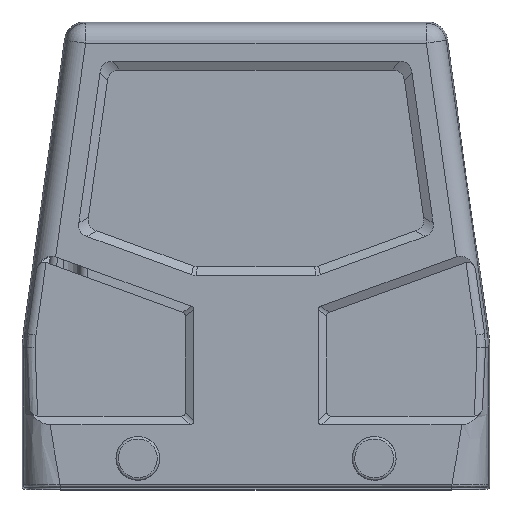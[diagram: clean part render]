
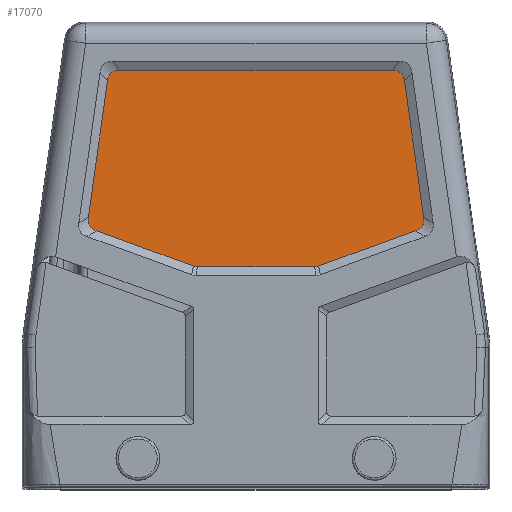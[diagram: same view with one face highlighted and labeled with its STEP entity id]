
A CAD part, top view. The second image highlights one B-rep face of the part: STEP entity #17070.
In plain terms, the highlighted planar face has unit normal (0, 0, 1).
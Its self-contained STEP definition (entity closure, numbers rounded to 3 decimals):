
#120 = CARTESIAN_POINT ( 'NONE',  ( -29.483, 36.346, 40.25 ) ) ;
#453 = VERTEX_POINT ( 'NONE', #10609 ) ;
#526 = CARTESIAN_POINT ( 'NONE',  ( 12.333, -2.218, 40.25 ) ) ;
#551 = CARTESIAN_POINT ( 'NONE',  ( 28.071, 37.268, 40.25 ) ) ;
#805 = DIRECTION ( 'NONE',  ( 0., 0., 1. ) ) ;
#815 = EDGE_CURVE ( 'NONE', #15549, #4106, #8582, .T. ) ;
#950 = CARTESIAN_POINT ( 'NONE',  ( 33.7, 7.667, 40.25 ) ) ;
#1557 = CARTESIAN_POINT ( 'NONE',  ( 29.745, 35.812, 40.25 ) ) ;
#1606 = CARTESIAN_POINT ( 'NONE',  ( 12.609, -2.117, 40.25 ) ) ;
#1804 = VERTEX_POINT ( 'NONE', #8917 ) ;
#2239 = DIRECTION ( 'NONE',  ( -1., 0., 0. ) ) ;
#2337 = DIRECTION ( 'NONE',  ( 0.94, 0.342, 0. ) ) ;
#2397 = CARTESIAN_POINT ( 'NONE',  ( 12.609, -2.117, 40.25 ) ) ;
#2506 = VERTEX_POINT ( 'NONE', #3150 ) ;
#2814 = B_SPLINE_CURVE_WITH_KNOTS ( 'NONE', 3,
 ( #8912, #15443, #7605, #120, #5529, #3229 ),
 .UNSPECIFIED., .F., .F.,
 ( 4, 2, 4 ),
 ( 0., 0.5, 1. ),
 .UNSPECIFIED. ) ;
#3150 = CARTESIAN_POINT ( 'NONE',  ( 27.367, 37.268, 40.25 ) ) ;
#3229 = CARTESIAN_POINT ( 'NONE',  ( -29.843, 35.116, 40.25 ) ) ;
#3358 = B_SPLINE_CURVE_WITH_KNOTS ( 'NONE', 3,
 ( #3411, #15900, #526, #10330 ),
 .UNSPECIFIED., .F., .F.,
 ( 4, 4 ),
 ( 0., 1. ),
 .UNSPECIFIED. ) ;
#3411 = CARTESIAN_POINT ( 'NONE',  ( 11.754, -2.268, 40.25 ) ) ;
#3476 = EDGE_CURVE ( 'NONE', #453, #8239, #3358, .T. ) ;
#3523 = EDGE_CURVE ( 'NONE', #1804, #17454, #13267, .T. ) ;
#3529 = ORIENTED_EDGE ( 'NONE', *, *, #3476, .T. ) ;
#3621 = DIRECTION ( 'NONE',  ( 1., 0., 0. ) ) ;
#3638 = EDGE_CURVE ( 'NONE', #12534, #9338, #15901, .T. ) ;
#3771 = CARTESIAN_POINT ( 'NONE',  ( -32.08, 4.97, 40.25 ) ) ;
#3883 = CARTESIAN_POINT ( 'NONE',  ( 33.7, 7.667, 40.25 ) ) ;
#3907 = EDGE_CURVE ( 'NONE', #16758, #1804, #2814, .T. ) ;
#3967 = CARTESIAN_POINT ( 'NONE',  ( -32.08, 4.97, 40.25 ) ) ;
#4106 = VERTEX_POINT ( 'NONE', #3883 ) ;
#4176 = ORIENTED_EDGE ( 'NONE', *, *, #815, .T. ) ;
#5103 = CARTESIAN_POINT ( 'NONE',  ( -11.754, -2.268, 40.25 ) ) ;
#5110 = CARTESIAN_POINT ( 'NONE',  ( -12.048, -2.268, 40.25 ) ) ;
#5192 = CARTESIAN_POINT ( 'NONE',  ( -33.698, 6.46, 40.25 ) ) ;
#5214 = AXIS2_PLACEMENT_3D ( 'NONE', #17502, #805, #3621 ) ;
#5234 = CARTESIAN_POINT ( 'NONE',  ( -12.333, -2.218, 40.25 ) ) ;
#5529 = CARTESIAN_POINT ( 'NONE',  ( -29.745, 35.813, 40.25 ) ) ;
#5624 = CARTESIAN_POINT ( 'NONE',  ( -27.367, 37.268, 40.25 ) ) ;
#5788 = ORIENTED_EDGE ( 'NONE', *, *, #3638, .T. ) ;
#6126 = ORIENTED_EDGE ( 'NONE', *, *, #13498, .T. ) ;
#6260 = VERTEX_POINT ( 'NONE', #5103 ) ;
#6330 = CARTESIAN_POINT ( 'NONE',  ( 27.367, 37.268, 40.25 ) ) ;
#6606 = CARTESIAN_POINT ( 'NONE',  ( -32.698, 5.195, 40.25 ) ) ;
#6712 = ORIENTED_EDGE ( 'NONE', *, *, #15891, .T. ) ;
#6955 = LINE ( 'NONE', #16192, #8448 ) ;
#7585 = CARTESIAN_POINT ( 'NONE',  ( -29.843, 35.116, 40.25 ) ) ;
#7605 = CARTESIAN_POINT ( 'NONE',  ( -28.635, 37.083, 40.25 ) ) ;
#8156 = EDGE_CURVE ( 'NONE', #17579, #2506, #16194, .T. ) ;
#8239 = VERTEX_POINT ( 'NONE', #1606 ) ;
#8313 = CARTESIAN_POINT ( 'NONE',  ( 29.843, 35.116, 40.25 ) ) ;
#8448 = VECTOR ( 'NONE', #2239, 1000. ) ;
#8469 = VECTOR ( 'NONE', #13746, 1000. ) ;
#8582 = B_SPLINE_CURVE_WITH_KNOTS ( 'NONE', 3,
 ( #16193, #9217, #10618, #13431, #13491, #950 ),
 .UNSPECIFIED., .F., .F.,
 ( 4, 2, 4 ),
 ( 0., 0.5, 1. ),
 .UNSPECIFIED. ) ;
#8849 = VECTOR ( 'NONE', #2337, 1000. ) ;
#8912 = CARTESIAN_POINT ( 'NONE',  ( -27.367, 37.268, 40.25 ) ) ;
#8917 = CARTESIAN_POINT ( 'NONE',  ( -29.843, 35.116, 40.25 ) ) ;
#9076 = ORIENTED_EDGE ( 'NONE', *, *, #9581, .T. ) ;
#9154 = EDGE_LOOP ( 'NONE', ( #3529, #9076, #4176, #6712, #10224, #6126, #17597, #16926, #16747, #5788, #12641, #16512 ) ) ;
#9217 = CARTESIAN_POINT ( 'NONE',  ( 32.697, 5.194, 40.25 ) ) ;
#9338 = VERTEX_POINT ( 'NONE', #18078 ) ;
#9354 = CARTESIAN_POINT ( 'NONE',  ( -33.7, 7.667, 40.25 ) ) ;
#9427 = LINE ( 'NONE', #16110, #12041 ) ;
#9580 = VECTOR ( 'NONE', #14484, 1000. ) ;
#9581 = EDGE_CURVE ( 'NONE', #8239, #15549, #12555, .T. ) ;
#10224 = ORIENTED_EDGE ( 'NONE', *, *, #8156, .T. ) ;
#10330 = CARTESIAN_POINT ( 'NONE',  ( 12.609, -2.117, 40.25 ) ) ;
#10413 = CARTESIAN_POINT ( 'NONE',  ( 28.635, 37.084, 40.25 ) ) ;
#10609 = CARTESIAN_POINT ( 'NONE',  ( 11.754, -2.268, 40.25 ) ) ;
#10618 = CARTESIAN_POINT ( 'NONE',  ( 33.145, 5.538, 40.25 ) ) ;
#11163 = B_SPLINE_CURVE_WITH_KNOTS ( 'NONE', 3,
 ( #13598, #5234, #5110, #14878 ),
 .UNSPECIFIED., .F., .F.,
 ( 4, 4 ),
 ( 0., 1. ),
 .UNSPECIFIED. ) ;
#11826 = VECTOR ( 'NONE', #16755, 1000. ) ;
#11833 = DIRECTION ( 'NONE',  ( 1., 0., 0. ) ) ;
#11906 = CARTESIAN_POINT ( 'NONE',  ( 32.08, 4.97, 40.25 ) ) ;
#12038 = EDGE_CURVE ( 'NONE', #9338, #6260, #11163, .T. ) ;
#12041 = VECTOR ( 'NONE', #11833, 1000. ) ;
#12142 = CARTESIAN_POINT ( 'NONE',  ( -33.792, 7.016, 40.25 ) ) ;
#12422 = B_SPLINE_CURVE_WITH_KNOTS ( 'NONE', 3,
 ( #14969, #12142, #5192, #13559, #6606, #3771 ),
 .UNSPECIFIED., .F., .F.,
 ( 4, 2, 4 ),
 ( 0., 0.5, 1. ),
 .UNSPECIFIED. ) ;
#12534 = VERTEX_POINT ( 'NONE', #15156 ) ;
#12555 = LINE ( 'NONE', #2397, #8849 ) ;
#12641 = ORIENTED_EDGE ( 'NONE', *, *, #12038, .T. ) ;
#12799 = EDGE_CURVE ( 'NONE', #6260, #453, #9427, .T. ) ;
#12988 = CARTESIAN_POINT ( 'NONE',  ( 29.843, 35.116, 40.25 ) ) ;
#13267 = LINE ( 'NONE', #7585, #9580 ) ;
#13431 = CARTESIAN_POINT ( 'NONE',  ( 33.699, 6.459, 40.25 ) ) ;
#13491 = CARTESIAN_POINT ( 'NONE',  ( 33.792, 7.016, 40.25 ) ) ;
#13498 = EDGE_CURVE ( 'NONE', #2506, #16758, #6955, .T. ) ;
#13559 = CARTESIAN_POINT ( 'NONE',  ( -33.145, 5.538, 40.25 ) ) ;
#13598 = CARTESIAN_POINT ( 'NONE',  ( -12.609, -2.117, 40.25 ) ) ;
#13746 = DIRECTION ( 'NONE',  ( 0.94, -0.342, 0. ) ) ;
#14213 = FACE_OUTER_BOUND ( 'NONE', #9154, .T. ) ;
#14484 = DIRECTION ( 'NONE',  ( -0.139, -0.99, 0. ) ) ;
#14878 = CARTESIAN_POINT ( 'NONE',  ( -11.754, -2.268, 40.25 ) ) ;
#14891 = LINE ( 'NONE', #15459, #11826 ) ;
#14969 = CARTESIAN_POINT ( 'NONE',  ( -33.7, 7.667, 40.25 ) ) ;
#15156 = CARTESIAN_POINT ( 'NONE',  ( -32.08, 4.97, 40.25 ) ) ;
#15443 = CARTESIAN_POINT ( 'NONE',  ( -28.07, 37.268, 40.25 ) ) ;
#15459 = CARTESIAN_POINT ( 'NONE',  ( 33.7, 7.667, 40.25 ) ) ;
#15549 = VERTEX_POINT ( 'NONE', #11906 ) ;
#15891 = EDGE_CURVE ( 'NONE', #4106, #17579, #14891, .T. ) ;
#15900 = CARTESIAN_POINT ( 'NONE',  ( 12.048, -2.268, 40.25 ) ) ;
#15901 = LINE ( 'NONE', #3967, #8469 ) ;
#16110 = CARTESIAN_POINT ( 'NONE',  ( -31.046, -2.268, 40.25 ) ) ;
#16192 = CARTESIAN_POINT ( 'NONE',  ( -31.046, 37.268, 40.25 ) ) ;
#16193 = CARTESIAN_POINT ( 'NONE',  ( 32.08, 4.97, 40.25 ) ) ;
#16194 = B_SPLINE_CURVE_WITH_KNOTS ( 'NONE', 3,
 ( #12988, #1557, #17334, #10413, #551, #6330 ),
 .UNSPECIFIED., .F., .F.,
 ( 4, 2, 4 ),
 ( 0., 0.5, 1. ),
 .UNSPECIFIED. ) ;
#16512 = ORIENTED_EDGE ( 'NONE', *, *, #12799, .T. ) ;
#16747 = ORIENTED_EDGE ( 'NONE', *, *, #17980, .T. ) ;
#16755 = DIRECTION ( 'NONE',  ( -0.139, 0.99, 0. ) ) ;
#16758 = VERTEX_POINT ( 'NONE', #5624 ) ;
#16926 = ORIENTED_EDGE ( 'NONE', *, *, #3523, .T. ) ;
#17070 = ADVANCED_FACE ( 'NONE', ( #14213 ), #17568, .T. ) ;
#17334 = CARTESIAN_POINT ( 'NONE',  ( 29.483, 36.346, 40.25 ) ) ;
#17454 = VERTEX_POINT ( 'NONE', #9354 ) ;
#17502 = CARTESIAN_POINT ( 'NONE',  ( -37.089, -4., 40.25 ) ) ;
#17568 = PLANE ( 'NONE',  #5214 ) ;
#17579 = VERTEX_POINT ( 'NONE', #8313 ) ;
#17597 = ORIENTED_EDGE ( 'NONE', *, *, #3907, .T. ) ;
#17980 = EDGE_CURVE ( 'NONE', #17454, #12534, #12422, .T. ) ;
#18078 = CARTESIAN_POINT ( 'NONE',  ( -12.609, -2.117, 40.25 ) ) ;
